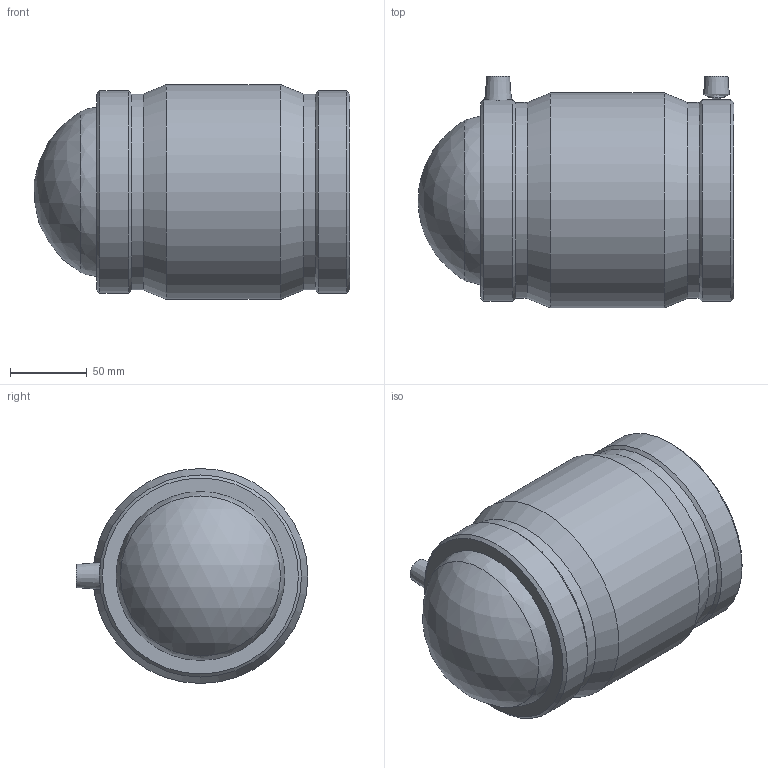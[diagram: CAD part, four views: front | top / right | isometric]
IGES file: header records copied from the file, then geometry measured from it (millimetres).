
Global section: file name: 491204110.ipt; native system: Autodesk Inventor 2015; preprocessor: unknown; author: KIM; date: 20171106.093755; units: millimetre
Bounding box: 205.59 x 151 x 140 mm (x, y, z)
Volume: 1213273.7 mm3; surface area: 164201.4 mm2
Topology: 2 solids, 3 shells, 40 faces, 84 edges, 58 vertices
Faces by surface type: plane 12, revolution 11, cylinder 8, cone 8, sphere 1
Full cylindrical faces by diameter (mm): 4 x2, 110 x1, 127.652 x2, 131.6 x2, 140 x1
